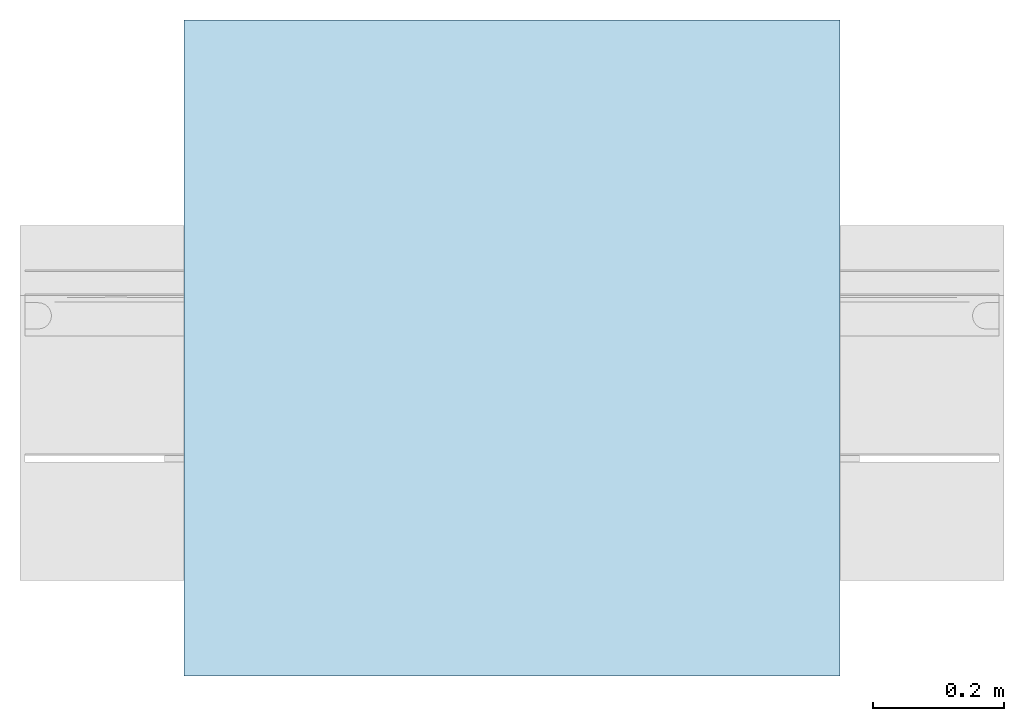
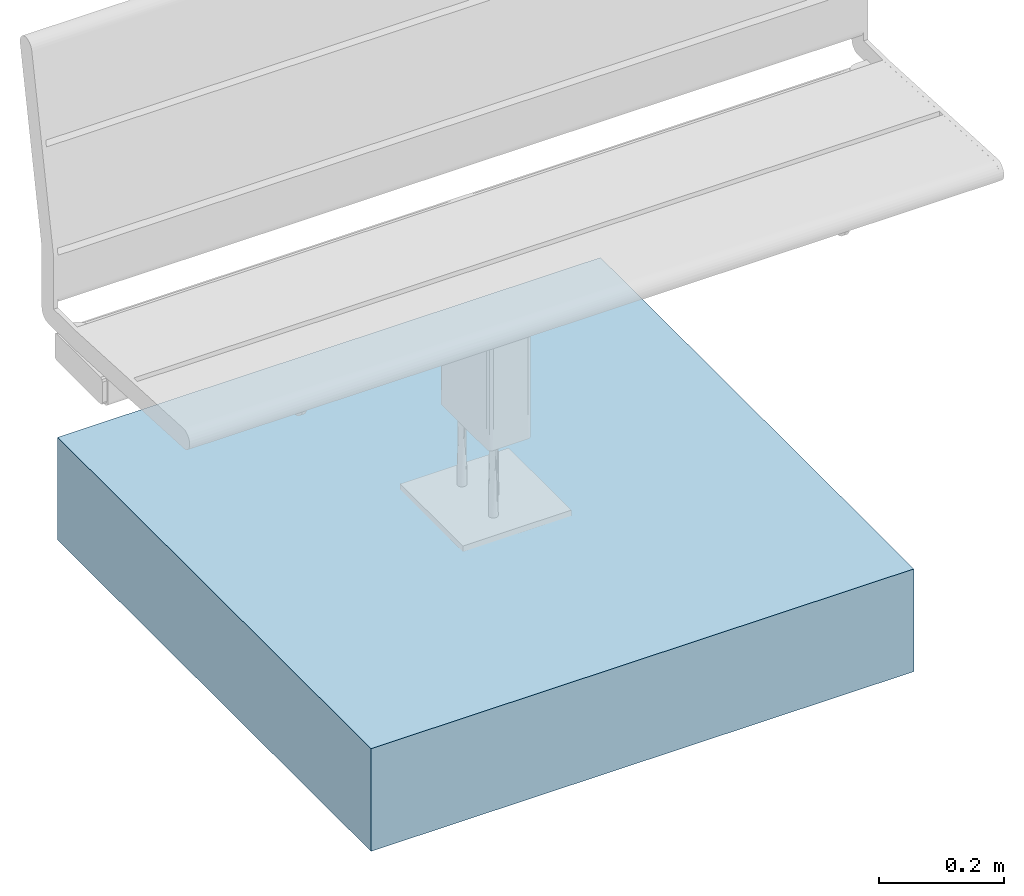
# One storey, incomplete: 1 slab.
"""IFC4 building model written with IfcOpenShell, lengths in metres."""

from ifc_helpers import new_model, entity, si_unit, converted_unit, direction, frame, origin, origin_2d_with_axis, place, context, subcontext, project, spatial, rectangle, extrude, material, type_object, element, save


model = new_model("IFC4")

# Units and contexts
model_context = context("Model", 3, precision=1e-05, world=origin(), true_north=direction((6.123031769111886e-17, 1.0)))
body_context = subcontext(model_context, "Body", "Model", "MODEL_VIEW")
ifc_project = project(units=[si_unit("LENGTHUNIT", "METRE"), converted_unit("PLANEANGLEUNIT", "DEGREE", entity("IfcPlaneAngleMeasure", 0.017453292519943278), si_unit("PLANEANGLEUNIT", "RADIAN"), dimensions=[0, 0, 0, 0, 0, 0, 0]), si_unit("AREAUNIT", "SQUARE_METRE")], contexts=[model_context])

# Site, building, storey
site_placement = place(None, origin())
site = spatial("IfcSite", under=ifc_project, at=site_placement, Name="Default", CompositionType="ELEMENT")
building_placement = place(site_placement, origin())
building = spatial("IfcBuilding", under=site, at=building_placement, CompositionType="ELEMENT")
storey_placement = place(building_placement, origin())
storey = spatial("IfcBuildingStorey", under=building, at=storey_placement, Name="Ebene 0", CompositionType="ELEMENT", Elevation=0.0)

# Slab
ifc_material = material(Name="DB_Fertigbeton", Category="DB_Beton")
slab_type = type_object("IfcSlabType", Name="DB_Calidum_light_Fundament:DB_Calidum_light_Fundament", PredefinedType="BASESLAB", material=ifc_material)
slab_placement = place(storey_placement, origin())
element("IfcSlab", 1, at=slab_placement, inside=storey, type_object=slab_type, Name="DB_Calidum_light_Fundament:DB_Calidum_light_Fundament", ObjectType="DB_Calidum_light_Fundament:DB_Calidum_light_Fundament", PredefinedType="BASESLAB", context=body_context, shape_type="SweptSolid", body=[
    extrude(rectangle(XDim=0.9999999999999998, YDim=0.9999999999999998, at=origin_2d_with_axis()), frame((0.0, 0.0, -0.36199999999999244), z_axis=(0.0, 0.0, 1.0), x_axis=(0.0, 1.0, 0.0)), (0.0, 0.0, 1.0), 0.2),
])

save(model, "model.ifc")
